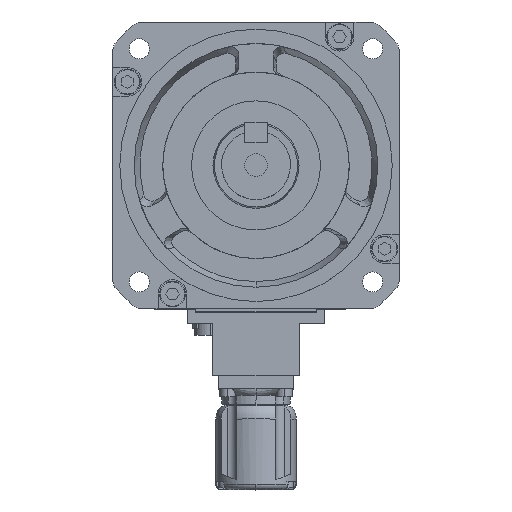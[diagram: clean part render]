
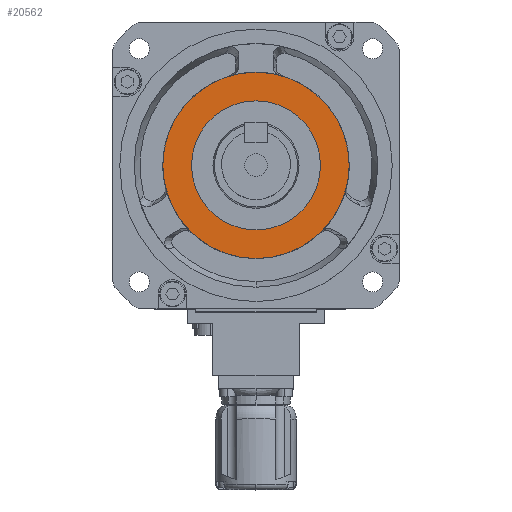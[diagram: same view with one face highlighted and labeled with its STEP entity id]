
A CAD part, top view. The second image highlights one B-rep face of the part: STEP entity #20562.
In plain terms, the highlighted planar face has unit normal (0, 0, 1).
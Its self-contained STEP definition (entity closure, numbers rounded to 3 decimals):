
#508 = CARTESIAN_POINT ( 'NONE',  ( -22.5, 0., 3.5 ) ) ;
#563 = CARTESIAN_POINT ( 'NONE',  ( 22.5, 0., 3.5 ) ) ;
#564 = DIRECTION ( 'NONE',  ( 1., 0., 0. ) ) ;
#565 = DIRECTION ( 'NONE',  ( 0., 0., 1. ) ) ;
#566 = CARTESIAN_POINT ( 'NONE',  ( 0., 0., 3.5 ) ) ;
#567 = AXIS2_PLACEMENT_3D ( 'NONE', #566, #565, #564 ) ;
#568 = CIRCLE ( 'NONE', #567, 22.5 ) ;
#1841 = CARTESIAN_POINT ( 'NONE',  ( 0., 0., 3.5 ) ) ;
#1890 = CARTESIAN_POINT ( 'NONE',  ( 0., -32.5, 3.5 ) ) ;
#1891 = CARTESIAN_POINT ( 'NONE',  ( 0., 32.5, 3.5 ) ) ;
#1892 = DIRECTION ( 'NONE',  ( 0., 1., 0. ) ) ;
#1893 = DIRECTION ( 'NONE',  ( 0., 0., -1. ) ) ;
#1894 = AXIS2_PLACEMENT_3D ( 'NONE', #1841, #1893, #1892 ) ;
#1895 = CIRCLE ( 'NONE', #1894, 32.5 ) ;
#7088 = DIRECTION ( 'NONE',  ( 1., 0., 0. ) ) ;
#7089 = DIRECTION ( 'NONE',  ( 0., 0., 1. ) ) ;
#7090 = CARTESIAN_POINT ( 'NONE',  ( 0., 0., 3.5 ) ) ;
#7091 = AXIS2_PLACEMENT_3D ( 'NONE', #7090, #7089, #7088 ) ;
#7092 = CIRCLE ( 'NONE', #7091, 22.5 ) ;
#7093 = DIRECTION ( 'NONE',  ( 1., 0., 0. ) ) ;
#7094 = DIRECTION ( 'NONE',  ( 0., 0., 1. ) ) ;
#7095 = CARTESIAN_POINT ( 'NONE',  ( 0., 0., 3.5 ) ) ;
#7096 = AXIS2_PLACEMENT_3D ( 'NONE', #7095, #7094, #7093 ) ;
#7097 = FACE_OUTER_BOUND ( 'NONE', #20567, .T. ) ;
#7098 = FACE_BOUND ( 'NONE', #20563, .T. ) ;
#7104 = PLANE ( 'NONE',  #7096 ) ;
#13895 = EDGE_CURVE ( 'NONE', #17319, #17318, #23720, .T. ) ;
#16668 = VERTEX_POINT ( 'NONE', #508 ) ;
#16670 = EDGE_CURVE ( 'NONE', #16668, #16671, #568, .T. ) ;
#16671 = VERTEX_POINT ( 'NONE', #563 ) ;
#17317 = EDGE_CURVE ( 'NONE', #17318, #17319, #1895, .T. ) ;
#17318 = VERTEX_POINT ( 'NONE', #1891 ) ;
#17319 = VERTEX_POINT ( 'NONE', #1890 ) ;
#20562 = ADVANCED_FACE ( 'NONE', ( #7098, #7097 ), #7104, .T. ) ;
#20563 = EDGE_LOOP ( 'NONE', ( #20564, #20566 ) ) ;
#20564 = ORIENTED_EDGE ( 'NONE', *, *, #20565, .F. ) ;
#20565 = EDGE_CURVE ( 'NONE', #16671, #16668, #7092, .T. ) ;
#20566 = ORIENTED_EDGE ( 'NONE', *, *, #16670, .F. ) ;
#20567 = EDGE_LOOP ( 'NONE', ( #20568, #20569 ) ) ;
#20568 = ORIENTED_EDGE ( 'NONE', *, *, #17317, .F. ) ;
#20569 = ORIENTED_EDGE ( 'NONE', *, *, #13895, .F. ) ;
#23717 = DIRECTION ( 'NONE',  ( 0., 1., 0. ) ) ;
#23718 = DIRECTION ( 'NONE',  ( 0., 0., -1. ) ) ;
#23719 = AXIS2_PLACEMENT_3D ( 'NONE', #23724, #23718, #23717 ) ;
#23720 = CIRCLE ( 'NONE', #23719, 32.5 ) ;
#23724 = CARTESIAN_POINT ( 'NONE',  ( 0., 0., 3.5 ) ) ;
